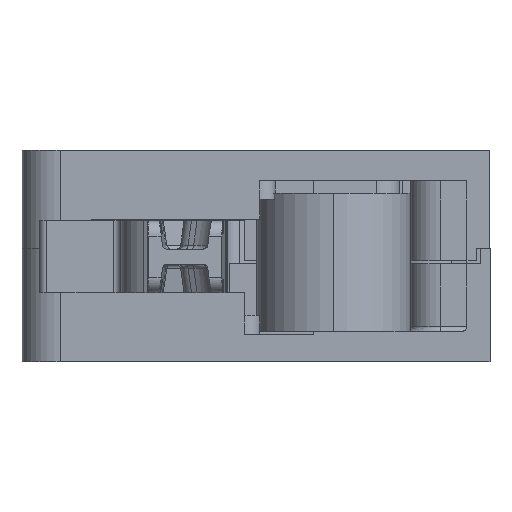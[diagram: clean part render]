
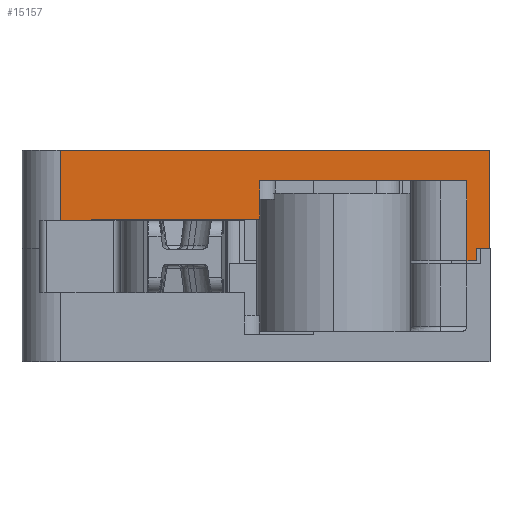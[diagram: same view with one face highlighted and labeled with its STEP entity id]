
A CAD part, left-side view. The second image highlights one B-rep face of the part: STEP entity #15157.
In plain terms, the highlighted planar face has unit normal (-1, 0, 0).
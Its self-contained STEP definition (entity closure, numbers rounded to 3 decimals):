
#4737 = CARTESIAN_POINT ( 'NONE',  ( 0., 15., 9.3 ) ) ;
#4853 = CARTESIAN_POINT ( 'NONE',  ( 0., 28., 13.8 ) ) ;
#5001 = CARTESIAN_POINT ( 'NONE',  ( 0., 15., 11.8 ) ) ;
#5073 = CARTESIAN_POINT ( 'NONE',  ( 0., 0., 7.4 ) ) ;
#5074 = CARTESIAN_POINT ( 'NONE',  ( 0., 0.9, 7.4 ) ) ;
#5124 = CARTESIAN_POINT ( 'NONE',  ( 0., 26., 7.4 ) ) ;
#5125 = CARTESIAN_POINT ( 'NONE',  ( 0., 28., 7.4 ) ) ;
#5153 = CARTESIAN_POINT ( 'NONE',  ( 0., 1.5, 11.8 ) ) ;
#5177 = CARTESIAN_POINT ( 'NONE',  ( 0., 15., 10.6 ) ) ;
#5199 = CARTESIAN_POINT ( 'NONE',  ( 0., 26., 9.3 ) ) ;
#5215 = CARTESIAN_POINT ( 'NONE',  ( 0., 1.5, 6.6 ) ) ;
#5235 = CARTESIAN_POINT ( 'NONE',  ( 0., 0.9, 6.6 ) ) ;
#5243 = CARTESIAN_POINT ( 'NONE',  ( 0., 0., 13.8 ) ) ;
#7118 = EDGE_LOOP ( 'NONE', ( #28595, #28599, #28600, #28880, #29028, #28596, #28813, #28546, #28907, #28841, #28557, #28700, #28843 ) ) ;
#9361 = PLANE ( 'NONE',  #23612 ) ;
#9376 = FACE_OUTER_BOUND ( 'NONE', #7118, .T. ) ;
#9386 = CARTESIAN_POINT ( 'NONE',  ( 0., 0., 11.8 ) ) ;
#9387 = DIRECTION ( 'NONE',  ( 1., 0., 0. ) ) ;
#9388 = DIRECTION ( 'NONE',  ( 0., 1., 0. ) ) ;
#10156 = EDGE_CURVE ( 'NONE', #22802, #22409, #16643, .T. ) ;
#10174 = EDGE_CURVE ( 'NONE', #22656, #22409, #16670, .T. ) ;
#10234 = EDGE_CURVE ( 'NONE', #22586, #22802, #16931, .T. ) ;
#10241 = EDGE_CURVE ( 'NONE', #22586, #22587, #16968, .T. ) ;
#10253 = EDGE_CURVE ( 'NONE', #22761, #22655, #17030, .T. ) ;
#10257 = EDGE_CURVE ( 'NONE', #22655, #22656, #17053, .T. ) ;
#10259 = EDGE_CURVE ( 'NONE', #22700, #22508, #17063, .T. ) ;
#10260 = EDGE_CURVE ( 'NONE', #22228, #22761, #17036, .T. ) ;
#10270 = EDGE_CURVE ( 'NONE', #22772, #22700, #17122, .T. ) ;
#10299 = EDGE_CURVE ( 'NONE', #22793, #22772, #17278, .T. ) ;
#10301 = EDGE_CURVE ( 'NONE', #22793, #22587, #17287, .T. ) ;
#10394 = EDGE_CURVE ( 'NONE', #22228, #22726, #19111, .T. ) ;
#10405 = EDGE_CURVE ( 'NONE', #22508, #22726, #19143, .T. ) ;
#15157 = ADVANCED_FACE ( 'NONE', ( #9376 ), #9361, .F. ) ;
#16643 = LINE ( 'NONE', #16646, #20663 ) ;
#16646 = CARTESIAN_POINT ( 'NONE',  ( 0., 28., 13.8 ) ) ;
#16648 = DIRECTION ( 'NONE',  ( 0., 1., 0. ) ) ;
#16670 = LINE ( 'NONE', #16701, #20672 ) ;
#16701 = CARTESIAN_POINT ( 'NONE',  ( 0., 28., 11.8 ) ) ;
#16703 = DIRECTION ( 'NONE',  ( 0., 0., 1. ) ) ;
#16931 = LINE ( 'NONE', #16933, #25106 ) ;
#16933 = CARTESIAN_POINT ( 'NONE',  ( 0., 0., 11.8 ) ) ;
#16934 = DIRECTION ( 'NONE',  ( 0., 0., 1. ) ) ;
#16968 = LINE ( 'NONE', #16970, #25114 ) ;
#16970 = CARTESIAN_POINT ( 'NONE',  ( 0., 0., 7.4 ) ) ;
#16972 = DIRECTION ( 'NONE',  ( 0., 1., 0. ) ) ;
#17030 = LINE ( 'NONE', #17033, #25126 ) ;
#17033 = CARTESIAN_POINT ( 'NONE',  ( 0., 26., 11.8 ) ) ;
#17034 = DIRECTION ( 'NONE',  ( 0., 0., -1. ) ) ;
#17036 = LINE ( 'NONE', #17069, #25130 ) ;
#17053 = LINE ( 'NONE', #17056, #25131 ) ;
#17056 = CARTESIAN_POINT ( 'NONE',  ( 0., 0., 7.4 ) ) ;
#17058 = DIRECTION ( 'NONE',  ( 0., 1., 0. ) ) ;
#17063 = LINE ( 'NONE', #17066, #25133 ) ;
#17066 = CARTESIAN_POINT ( 'NONE',  ( 0., 0., 11.8 ) ) ;
#17067 = DIRECTION ( 'NONE',  ( 0., 1., 0. ) ) ;
#17069 = CARTESIAN_POINT ( 'NONE',  ( 0., 0., 9.3 ) ) ;
#17070 = DIRECTION ( 'NONE',  ( 0., 1., 0. ) ) ;
#17122 = LINE ( 'NONE', #17125, #25144 ) ;
#17125 = CARTESIAN_POINT ( 'NONE',  ( 0., 1.5, 11.8 ) ) ;
#17126 = DIRECTION ( 'NONE',  ( 0., 0., 1. ) ) ;
#17278 = LINE ( 'NONE', #17280, #25174 ) ;
#17280 = CARTESIAN_POINT ( 'NONE',  ( 0., 3.2, 6.6 ) ) ;
#17281 = DIRECTION ( 'NONE',  ( 0., 1., 0. ) ) ;
#17287 = LINE ( 'NONE', #17289, #25176 ) ;
#17289 = CARTESIAN_POINT ( 'NONE',  ( 0., 0.9, 6.6 ) ) ;
#17290 = DIRECTION ( 'NONE',  ( 0., 0., 1. ) ) ;
#19111 = LINE ( 'NONE', #19112, #27387 ) ;
#19112 = CARTESIAN_POINT ( 'NONE',  ( 0., 15., 9.3 ) ) ;
#19113 = DIRECTION ( 'NONE',  ( 0., 0., 1. ) ) ;
#19143 = LINE ( 'NONE', #19144, #27399 ) ;
#19144 = CARTESIAN_POINT ( 'NONE',  ( 0., 15., 10.6 ) ) ;
#19145 = DIRECTION ( 'NONE',  ( 0., 0., -1. ) ) ;
#20663 = VECTOR ( 'NONE', #16648, 1000. ) ;
#20672 = VECTOR ( 'NONE', #16703, 1000. ) ;
#22228 = VERTEX_POINT ( 'NONE', #4737 ) ;
#22409 = VERTEX_POINT ( 'NONE', #4853 ) ;
#22508 = VERTEX_POINT ( 'NONE', #5001 ) ;
#22586 = VERTEX_POINT ( 'NONE', #5073 ) ;
#22587 = VERTEX_POINT ( 'NONE', #5074 ) ;
#22655 = VERTEX_POINT ( 'NONE', #5124 ) ;
#22656 = VERTEX_POINT ( 'NONE', #5125 ) ;
#22700 = VERTEX_POINT ( 'NONE', #5153 ) ;
#22726 = VERTEX_POINT ( 'NONE', #5177 ) ;
#22761 = VERTEX_POINT ( 'NONE', #5199 ) ;
#22772 = VERTEX_POINT ( 'NONE', #5215 ) ;
#22793 = VERTEX_POINT ( 'NONE', #5235 ) ;
#22802 = VERTEX_POINT ( 'NONE', #5243 ) ;
#23612 = AXIS2_PLACEMENT_3D ( 'NONE', #9386, #9387, #9388 ) ;
#25106 = VECTOR ( 'NONE', #16934, 1000. ) ;
#25114 = VECTOR ( 'NONE', #16972, 1000. ) ;
#25126 = VECTOR ( 'NONE', #17034, 1000. ) ;
#25130 = VECTOR ( 'NONE', #17070, 1000. ) ;
#25131 = VECTOR ( 'NONE', #17058, 1000. ) ;
#25133 = VECTOR ( 'NONE', #17067, 1000. ) ;
#25144 = VECTOR ( 'NONE', #17126, 1000. ) ;
#25174 = VECTOR ( 'NONE', #17281, 1000. ) ;
#25176 = VECTOR ( 'NONE', #17290, 1000. ) ;
#27387 = VECTOR ( 'NONE', #19113, 1000. ) ;
#27399 = VECTOR ( 'NONE', #19145, 1000. ) ;
#28546 = ORIENTED_EDGE ( 'NONE', *, *, #10270, .F. ) ;
#28557 = ORIENTED_EDGE ( 'NONE', *, *, #10241, .F. ) ;
#28595 = ORIENTED_EDGE ( 'NONE', *, *, #10174, .F. ) ;
#28596 = ORIENTED_EDGE ( 'NONE', *, *, #10405, .F. ) ;
#28599 = ORIENTED_EDGE ( 'NONE', *, *, #10257, .F. ) ;
#28600 = ORIENTED_EDGE ( 'NONE', *, *, #10253, .F. ) ;
#28700 = ORIENTED_EDGE ( 'NONE', *, *, #10234, .T. ) ;
#28813 = ORIENTED_EDGE ( 'NONE', *, *, #10259, .F. ) ;
#28841 = ORIENTED_EDGE ( 'NONE', *, *, #10301, .T. ) ;
#28843 = ORIENTED_EDGE ( 'NONE', *, *, #10156, .T. ) ;
#28880 = ORIENTED_EDGE ( 'NONE', *, *, #10260, .F. ) ;
#28907 = ORIENTED_EDGE ( 'NONE', *, *, #10299, .F. ) ;
#29028 = ORIENTED_EDGE ( 'NONE', *, *, #10394, .T. ) ;
